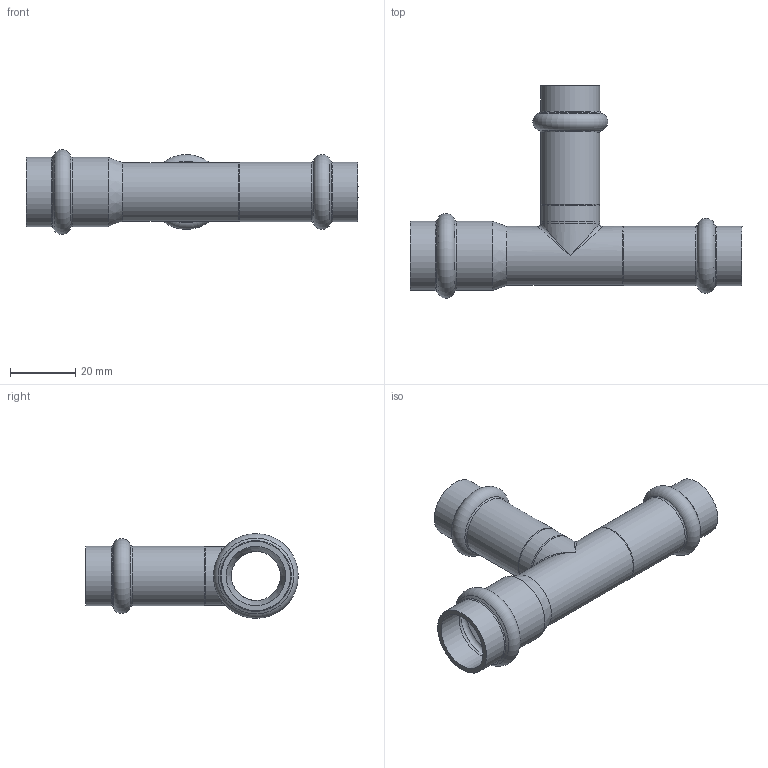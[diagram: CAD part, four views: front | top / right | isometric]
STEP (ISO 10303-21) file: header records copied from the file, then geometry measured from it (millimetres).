
FILE_DESCRIPTION((''),'2;1');
FILE_NAME('G:\Nirosan-Schmiedefeld\Technics\CAD\001 Serie 9.000\018\69130181515H(1).stp','2018-08-28T08:57:31',('herberg'),(''),'Autodesk Inventor 2009','Autodesk Inventor 2009','');
FILE_SCHEMA(('AUTOMOTIVE_DESIGN { 1 0 10303 214 1 1 1 1 }'));
Length unit declared in the file: millimetre
Products named in the file (3): 69130181515H(1); 69LM1815P(0); HM_69130181518(1)
Assembly tree (2 placements, depth 2):
  69130181515H(1)
    69LM1815P(0)
    HM_69130181518(1)
Bounding box: 101.5 x 64.94 x 25.89 mm (x, y, z)
Volume: 12448.3 mm3; surface area: 16997.3 mm2
Topology: 2 solids, 2 shells, 57 faces, 127 edges, 66 vertices
Faces by surface type: cylinder 18, bspline 16, cone 12, torus 6, plane 5
Full cylindrical faces by diameter (mm): 15 x3, 15.15 x4, 18 x3, 18.15 x6, 21.15 x2
Entity records: 2344 total; most frequent: CARTESIAN_POINT 1330, DIRECTION 212, ORIENTED_EDGE 120, EDGE_LOOP 112, AXIS2_PLACEMENT_3D 106, EDGE_CURVE 60, FACE_OUTER_BOUND 57, ADVANCED_FACE 57
